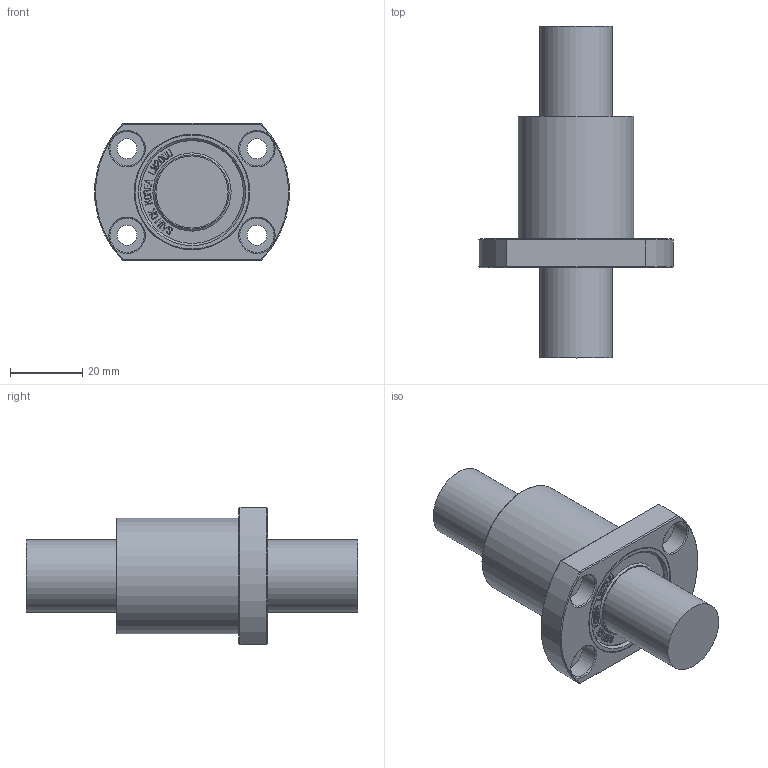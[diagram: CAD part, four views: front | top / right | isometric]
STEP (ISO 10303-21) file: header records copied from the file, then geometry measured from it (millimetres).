
FILE_DESCRIPTION(/* description */ (''),/* implementation_level */ '2;1');
FILE_NAME(/* name */ 'W:\(01) 2024년 홈페이지 CAD파일 최신화\LMH\IPT\LMH20UU.stp',/* time_stamp */ '2025-01-23T09:34:43+09:00',/* author */ ('서우현'),/* organization */ (''),/* preprocessor_version */ 'ST-DEVELOPER v17.2',/* originating_system */ 'Autodesk Inventor 2019',/* authorisation */ '');
FILE_SCHEMA (('AUTOMOTIVE_DESIGN { 1 0 10303 214 3 1 1 }'));
Length unit declared in the file: millimetre
Products named in the file (1): LM5
Bounding box: 53.8 x 92 x 38 mm (x, y, z)
Volume: 55647.5 mm3; surface area: 12347.4 mm2
Topology: 1 solids, 1 shells, 860 faces, 2414 edges, 1612 vertices
Faces by surface type: bspline 592, plane 234, cone 16, cylinder 16, torus 2
Full cylindrical faces by diameter (mm): 5.5 x4, 9.5 x4, 20 x2, 28.5 x2, 32 x2
Entity records: 29242 total; most frequent: CARTESIAN_POINT 10231, ORIENTED_EDGE 4828, EDGE_CURVE 2414, DIRECTION 1842, VERTEX_POINT 1612, B_SPLINE_CURVE_WITH_KNOTS 1184, LINE 1140, VECTOR 1140
